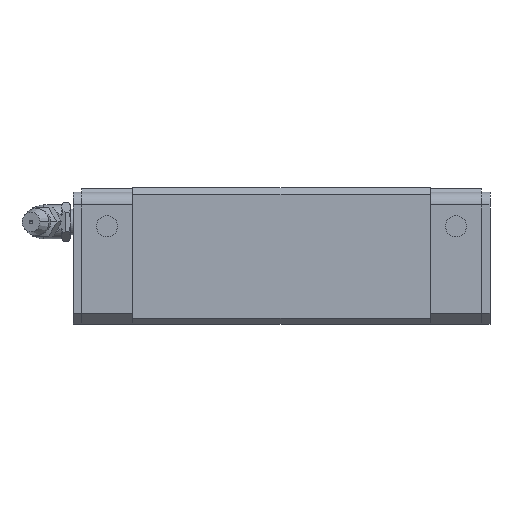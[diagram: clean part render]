
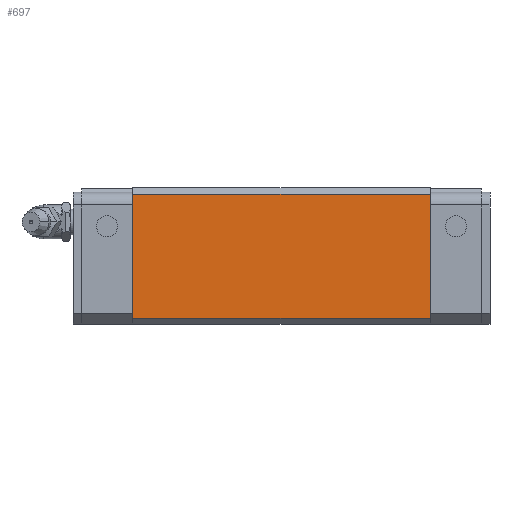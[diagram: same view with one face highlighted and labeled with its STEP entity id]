
A CAD part, front view. The second image highlights one B-rep face of the part: STEP entity #697.
In plain terms, the highlighted planar face has unit normal (0, -1, 0).
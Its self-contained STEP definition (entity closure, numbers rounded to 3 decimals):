
#636=CARTESIAN_POINT('POINT40',(84.1,-30.,
   1.3));
#637=VERTEX_POINT('VERTEX40',#636);
#644=CARTESIAN_POINT('POINT41',(14.,-30.,
   1.3));
#645=VERTEX_POINT('VERTEX41',#644);
#646=CARTESIAN_POINT('POS65',(14.,-30.,
   1.3));
#647=DIRECTION('DIR98',(1.,0.,0.));
#648=VECTOR('VEC32',#647,1.);
#649=LINE('STRAIGHT32',#646,#648);
#650=EDGE_CURVE('EDGE64',#645,#637,#649,.T.);
#667=CARTESIAN_POINT('POINT42',(84.1,-30.,
   30.5));
#668=VERTEX_POINT('VERTEX42',#667);
#669=CARTESIAN_POINT('POS68',(84.1,-30.,
   1.3));
#670=DIRECTION('DIR102',(0.,0.,
   1.));
#671=VECTOR('VEC34',#670,1.);
#672=LINE('STRAIGHT34',#669,#671);
#673=EDGE_CURVE('EDGE66',#637,#668,#672,.T.);
#674=ORIENTED_EDGE('COEDGE119',*,*,#673,.T.);
#675=CARTESIAN_POINT('POINT43',(14.,-30.,
   30.5));
#676=VERTEX_POINT('VERTEX43',#675);
#677=CARTESIAN_POINT('POS69',(14.,-30.,
   30.5));
#678=DIRECTION('DIR103',(1.,0.,0.));
#679=VECTOR('VEC35',#678,1.);
#680=LINE('STRAIGHT35',#677,#679);
#681=EDGE_CURVE('EDGE67',#676,#668,#680,.T.);
#682=ORIENTED_EDGE('COEDGE120',*,*,#681,.F.);
#683=CARTESIAN_POINT('POS70',(14.,-30.,
   1.3));
#684=DIRECTION('DIR104',(0.,0.,
   1.));
#685=VECTOR('VEC36',#684,1.);
#686=LINE('STRAIGHT36',#683,#685);
#687=EDGE_CURVE('EDGE68',#645,#676,#686,.T.);
#688=ORIENTED_EDGE('COEDGE121',*,*,#687,.F.);
#689=ORIENTED_EDGE('COEDGE122',*,*,#650,.T.);
#690=EDGE_LOOP('NONE',(#674,#682,#688,#689));
#691=FACE_BOUND('LOOP1',#690,.T.);
#692=CARTESIAN_POINT('POS71',(14.,-30.,
   1.3));
#693=DIRECTION('DIR105',(0.,-1.,
   0.));
#694=DIRECTION('DIR106',(1.,0.,0.));
#695=AXIS2_PLACEMENT_3D('AXIS35',#692,#693,#694);
#696=PLANE('PLANE6',#695);
#697=ADVANCED_FACE('FACE32',(#691),#696,.T.);
